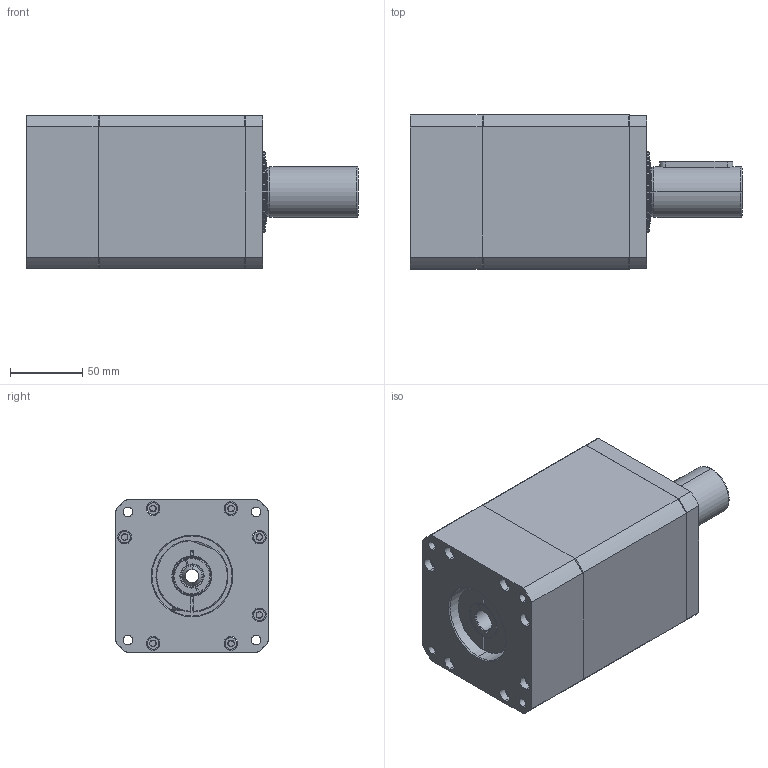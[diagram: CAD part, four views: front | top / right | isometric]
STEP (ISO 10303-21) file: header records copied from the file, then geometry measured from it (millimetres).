
FILE_DESCRIPTION (( 'STEP AP214' ), '1' );
FILE_NAME ('9003670-XXXX.STEP', '2024-08-22T14:54:06', ( '' ), ( '' ), 'SwSTEP 2.0', 'SolidWorks 2019', '' );
FILE_SCHEMA (( 'AUTOMOTIVE_DESIGN' ));
Length unit declared in the file: inch
Products named in the file (1): 9003670-XXXX
Bounding box: 230.35 x 106.7 x 106.7 mm (x, y, z)
Surface area: 120469 mm2 (no closed solid volume)
Topology: 0 solids, 25 shells, 319 faces, 901 edges, 606 vertices
Faces by surface type: cone 122, plane 93, cylinder 81, torus 22, bspline 1
Entity records: 16498 total; most frequent: CARTESIAN_POINT 4279, DIRECTION 1733, ORIENTED_EDGE 1461, EDGE_CURVE 899, AXIS2_PLACEMENT_3D 720, VERTEX_POINT 606, CIRCLE 401, EDGE_LOOP 384
